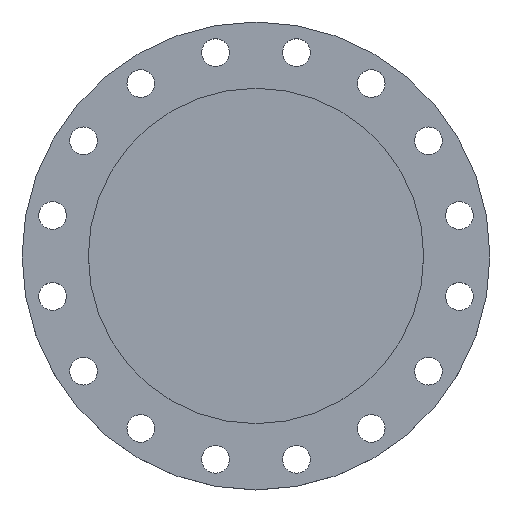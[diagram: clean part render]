
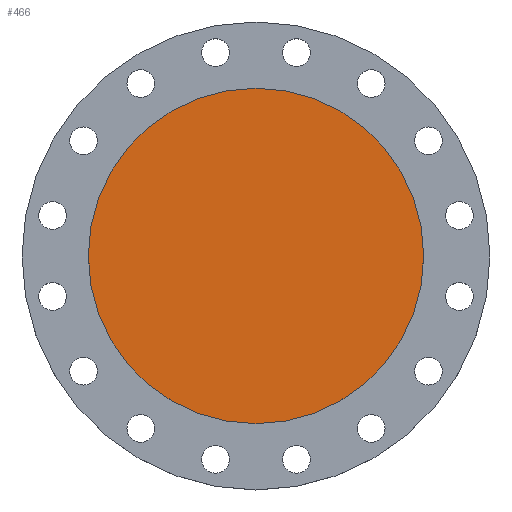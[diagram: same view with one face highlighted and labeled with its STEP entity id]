
A CAD part, top view. The second image highlights one B-rep face of the part: STEP entity #466.
In plain terms, the highlighted planar face has unit normal (0, 0, 1).
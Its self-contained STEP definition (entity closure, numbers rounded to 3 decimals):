
#268 = AXIS2_PLACEMENT_3D ( 'NONE', #716, #715, #714 ) ;
#386 = CARTESIAN_POINT ( 'NONE',  ( -236.5, 0., 0. ) ) ;
#466 = ADVANCED_FACE ( 'NONE', ( #718 ), #717, .T. ) ;
#479 = DIRECTION ( 'NONE',  ( -1., 0., 0. ) ) ;
#480 = DIRECTION ( 'NONE',  ( 0., 0., -1. ) ) ;
#483 = CARTESIAN_POINT ( 'NONE',  ( 0., 0., 0. ) ) ;
#586 = DIRECTION ( 'NONE',  ( -1., 0., 0. ) ) ;
#587 = DIRECTION ( 'NONE',  ( 0., 0., -1. ) ) ;
#589 = CARTESIAN_POINT ( 'NONE',  ( 0., 0., 0. ) ) ;
#619 = CARTESIAN_POINT ( 'NONE',  ( 236.5, 0., 0. ) ) ;
#710 = VERTEX_POINT ( 'NONE', #619 ) ;
#714 = DIRECTION ( 'NONE',  ( 1., 0., 0. ) ) ;
#715 = DIRECTION ( 'NONE',  ( 0., 0., 1. ) ) ;
#716 = CARTESIAN_POINT ( 'NONE',  ( 0., 0., 0. ) ) ;
#717 = PLANE ( 'NONE',  #268 ) ;
#718 = FACE_OUTER_BOUND ( 'NONE', #1237, .T. ) ;
#889 = EDGE_CURVE ( 'NONE', #710, #1282, #1586, .T. ) ;
#1110 = EDGE_CURVE ( 'NONE', #1282, #710, #1626, .T. ) ;
#1237 = EDGE_LOOP ( 'NONE', ( #1499, #1505 ) ) ;
#1282 = VERTEX_POINT ( 'NONE', #386 ) ;
#1499 = ORIENTED_EDGE ( 'NONE', *, *, #1110, .F. ) ;
#1505 = ORIENTED_EDGE ( 'NONE', *, *, #889, .F. ) ;
#1586 = CIRCLE ( 'NONE', #1634, 236.5 ) ;
#1589 = AXIS2_PLACEMENT_3D ( 'NONE', #483, #480, #479 ) ;
#1626 = CIRCLE ( 'NONE', #1589, 236.5 ) ;
#1634 = AXIS2_PLACEMENT_3D ( 'NONE', #589, #587, #586 ) ;
